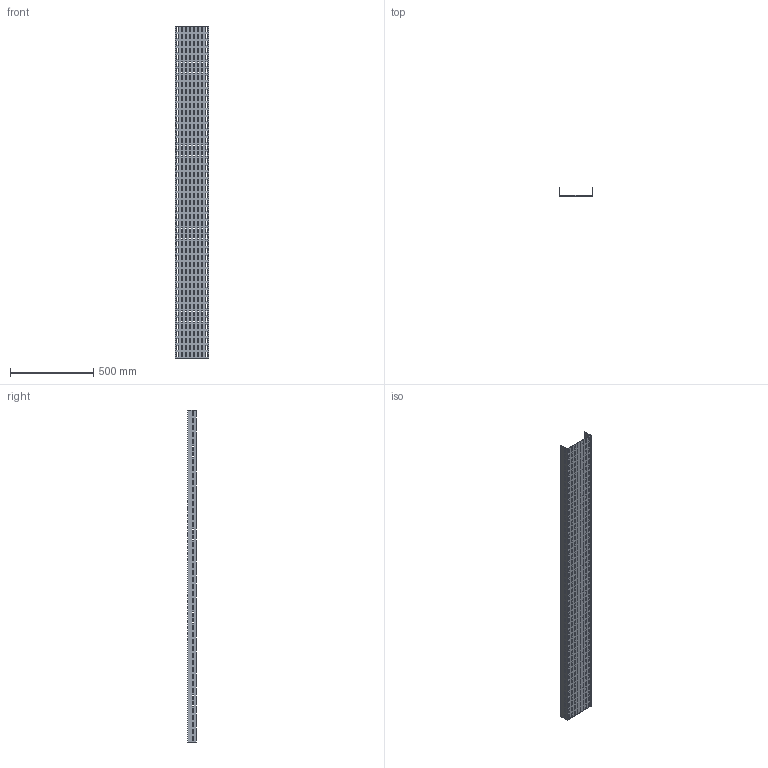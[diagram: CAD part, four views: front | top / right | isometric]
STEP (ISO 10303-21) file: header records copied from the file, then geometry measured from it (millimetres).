
FILE_DESCRIPTION (( 'STEP AP214' ), '1' );
FILE_NAME ('01F2B200.step', '2025-02-21T13:17:28', ( '' ), ( '' ), 'SwSTEP 2.0', 'SolidWorks 2023', '' );
FILE_SCHEMA (( 'AUTOMOTIVE_DESIGN' ));
Length unit declared in the file: millimetre
Products named in the file (1): 01F2B200
Bounding box: 204 x 52 x 2000 mm (x, y, z)
Volume: 1813000 mm3; surface area: 1159627 mm2
Topology: 1 solids, 1 shells, 1930 faces, 5784 edges, 3856 vertices
Faces by surface type: plane 1930
Entity records: 65591 total; most frequent: CARTESIAN_POINT 11571, ORIENTED_EDGE 11568, DIRECTION 9646, LINE 5784, EDGE_CURVE 5784, VECTOR 5784, VERTEX_POINT 3856, EDGE_LOOP 2890
